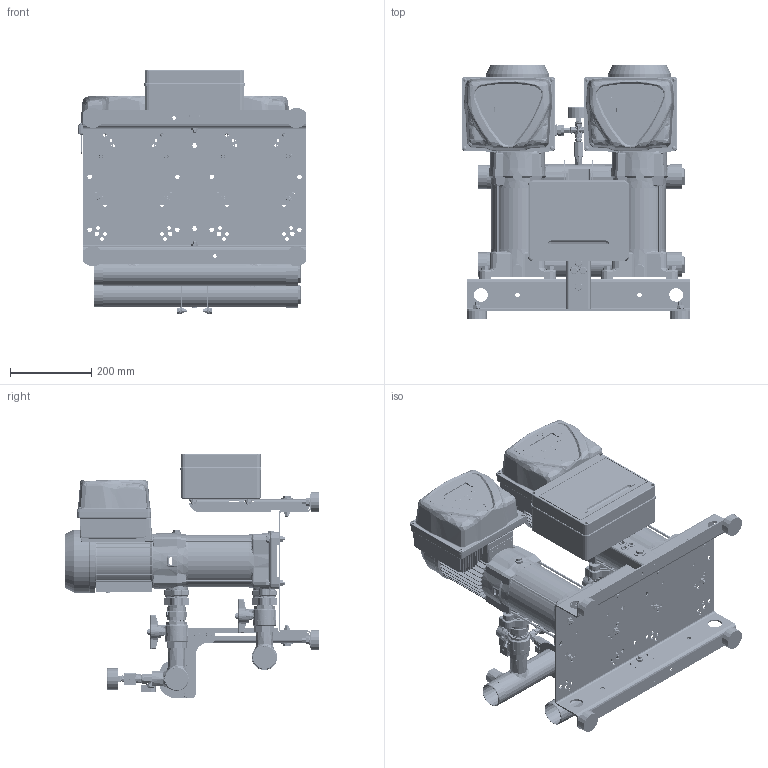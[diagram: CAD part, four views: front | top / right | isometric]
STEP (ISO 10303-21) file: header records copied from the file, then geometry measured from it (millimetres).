
FILE_DESCRIPTION((''),'2;1');
FILE_NAME('2GPE_CVM_B20_ESPT_REV4_ASM','2024-12-03T13:02:01',('Utente'),('"Ebara Pumps Europe S.p.A"'),'CREO PARAMETRIC BY PTC INC, 2022124','CREO PARAMETRIC BY PTC INC, 2022124','');
FILE_SCHEMA(('AUTOMOTIVE_DESIGN { 1 0 10303 214 1 1 1 1 }'));
Products named in the file (45): 62508_275562936; CALOTTA_F_A304_DN50_369800820; VAL_INT_MF_OTN_CIM301-14_DN32; VAL_INT_M-F_OTN_CIM301_DN32_ASM; EP_CVM_B-20_R; EP_CVM_B-20_R_ASM; ADATTATORE_E-SPD_MEC80-90-100; E-SPD_ADATTATORE_MEC80-90-100_ASM; BACK_E-SPD_PLUS_2200-4000; COVER_E-SPD_PLUS_2200-4000; COM_E-SPDT_MEC80-90-100_VERT_ASM; VAL-NR-MF-OTN-CIM32-DN32; VALV_NR_MF_CIM32_DN32_ASM; RONDEL-P_FE_ZN_UNI6592_M10; DADO_AUTOAGG_M10_ESAG; VITI_TE_ISO4017_M10_L40; 62513_275562944; VAL_INT_MF_OTN_CIM012_DN8; NIPPLO_OTG_8_380000861; CROCE_OTG_DN8_380000881; TRASD_16BAR_460500024; MAN_POS_D50_10BAR_361600003; BASE_2GP_I300-B300_DNRV; MONTANTE_H300_271472898; PIEDINO_CIL_369650010; DADI_NORM_ISO4032_FE_ZN_M10; RONDEL-P_ZN_UNI6593_M10X30X2-5; VITI_TE_ISO4017_M10_L45; TRAVERSO_MONT_L200_271472882; RONDEL-P_FE_ZN_UNI6593_M6X18X2; RONDEL-P_FE_ZN_UNI6592_M6; VITI_TE_ISO4017_M6_L20; DADI_NORM_ISO4032_FE_ZN_M6; DNRV_2P_I300-B300_H300-Q250X198_ASM; QUADRO_PROT_2P_T_ELENTEK; PG_PVC_D10-5_380000891; TAPPO-SALVAFIL_D31; 271473006; 271472998; 72578_271473004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
Assembly tree (134 placements, depth 3):
  2GPE_CVM_B20_ESPT_REV4_ASM
    62508_275562936
    CALOTTA_F_A304_DN50_369800820  x2
    VAL_INT_M-F_OTN_CIM301_DN32_ASM  x4
      VAL_INT_MF_OTN_CIM301-14_DN32
    EP_CVM_B-20_R_ASM  x2
      EP_CVM_B-20_R
    E-SPD_ADATTATORE_MEC80-90-100_ASM  x2
      ADATTATORE_E-SPD_MEC80-90-100
    COM_E-SPDT_MEC80-90-100_VERT_ASM  x2
      BACK_E-SPD_PLUS_2200-4000
      COVER_E-SPD_PLUS_2200-4000
    VALV_NR_MF_CIM32_DN32_ASM  x2
      VAL-NR-MF-OTN-CIM32-DN32
    RONDEL-P_FE_ZN_UNI6592_M10  x8
    DADO_AUTOAGG_M10_ESAG  x9
    VITI_TE_ISO4017_M10_L40  x8
    62513_275562944
    VAL_INT_MF_OTN_CIM012_DN8
    NIPPLO_OTG_8_380000861
    CROCE_OTG_DN8_380000881
    TRASD_16BAR_460500024  x2
    MAN_POS_D50_10BAR_361600003
    DNRV_2P_I300-B300_H300-Q250X198_ASM
      BASE_2GP_I300-B300_DNRV
      MONTANTE_H300_271472898
      PIEDINO_CIL_369650010  x4
      RONDEL-P_FE_ZN_UNI6592_M10  x4
      DADI_NORM_ISO4032_FE_ZN_M10  x4
      RONDEL-P_ZN_UNI6593_M10X30X2-5
      VITI_TE_ISO4017_M10_L45
      TRAVERSO_MONT_L200_271472882  x2
      RONDEL-P_FE_ZN_UNI6593_M6X18X2  x8
      RONDEL-P_FE_ZN_UNI6592_M6  x4
      VITI_TE_ISO4017_M6_L20  x4
      DADI_NORM_ISO4032_FE_ZN_M6  x4
      DADO_AUTOAGG_M10_ESAG
    QUADRO_PROT_2P_T_ELENTEK
    PG_PVC_D10-5_380000891  x3
    TAPPO-SALVAFIL_D31  x2
    271473006
    271472998  x2
    72578_271473004  x2
    RONDEL-P_ZN_UNI6593_M10X30X2-5
    VITI_TE_ISO4017_M10_L45
    RONDEL-P_FE_ZN_UNI6592_M8  x12
    VITI_TE_ISO4017_M8_L18  x8
    DADI_NORM_ISO4032_FE_ZN_M8  x4
    DADO_AUTOAGG_M8_ESAG  x4
Bounding box: 562.5 x 626.1 x 601.25 mm (x, y, z)
Volume: 4315797.5 mm3; surface area: 4794329.1 mm2
Topology: 296 solids, 1277 shells, 32656 faces, 85179 edges, 52556 vertices
Faces by surface type: plane 15709, cylinder 8029, bspline 2537, sphere 2093, cone 1521, extrusion 1426, torus 1341
Entity records: 735321 total; most frequent: CARTESIAN_POINT 286799, ORIENTED_EDGE 74540, DIRECTION 72146, EDGE_CURVE 38604, VERTEX_POINT 24229, AXIS2_PLACEMENT_3D 24157, VECTOR 23700, LINE 23070
